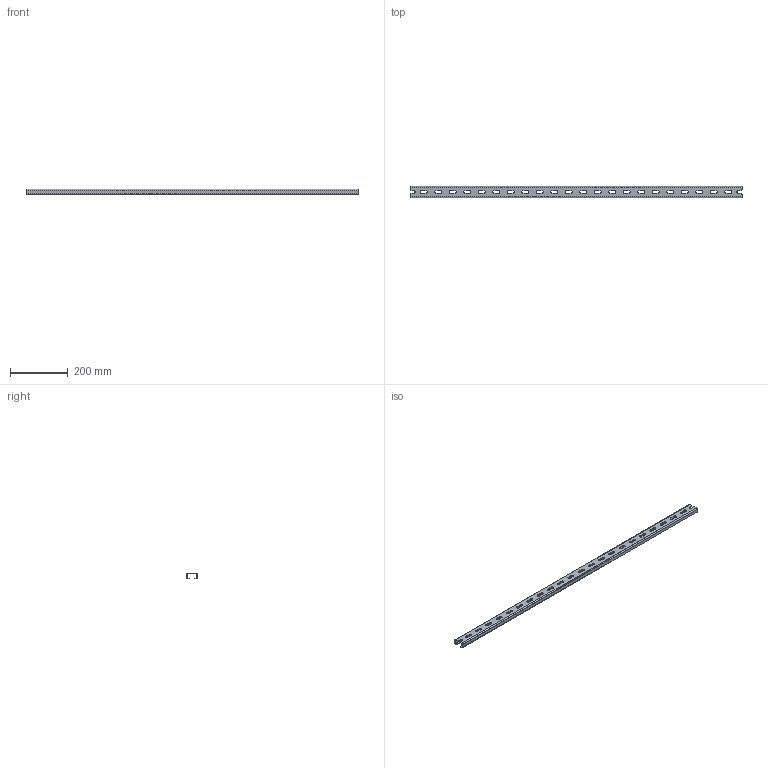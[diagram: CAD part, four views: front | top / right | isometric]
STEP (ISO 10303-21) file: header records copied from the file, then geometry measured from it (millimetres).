
FILE_DESCRIPTION (( 'STEP AP214' ), '1' );
FILE_NAME ('MTD 120 C Òðàâåðñà ìîíòàæíàÿ.STEP', '2023-12-11T04:29:57', ( '' ), ( '' ), 'SwSTEP 2.0', 'SolidWorks 2019', '' );
FILE_SCHEMA (( 'AUTOMOTIVE_DESIGN' ));
Length unit declared in the file: millimetre
Products named in the file (1): MTD 120 C Òðàâåðñà ìîíòàæíàÿ
Bounding box: 1145 x 38 x 18.5 mm (x, y, z)
Volume: 179042.6 mm3; surface area: 186712.9 mm2
Topology: 1 solids, 1 shells, 173 faces, 481 edges, 310 vertices
Faces by surface type: cylinder 89, plane 84
Entity records: 5679 total; most frequent: DIRECTION 1007, CARTESIAN_POINT 965, ORIENTED_EDGE 962, EDGE_CURVE 481, AXIS2_PLACEMENT_3D 352, VERTEX_POINT 310, LINE 303, VECTOR 303
